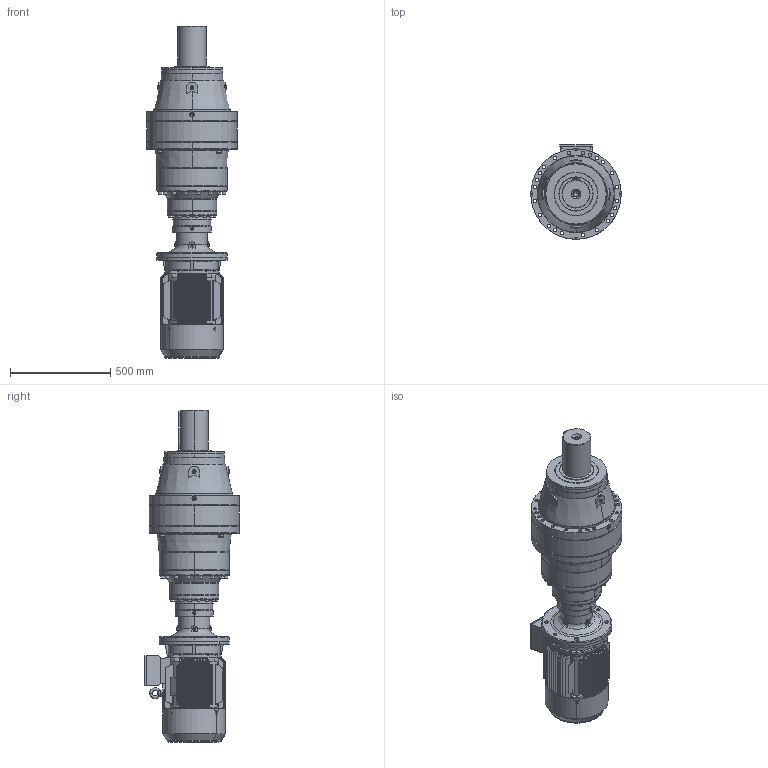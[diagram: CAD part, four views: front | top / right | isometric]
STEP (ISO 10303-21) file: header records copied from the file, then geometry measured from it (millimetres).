
FILE_DESCRIPTION (( 'STEP AP203' ), '1' );
FILE_NAME ('PNL-3504L-HS160M-4.STEP', '2019-05-24T12:41:38', ( '' ), ( '' ), 'SwSTEP 2.0', 'SolidWorks 2012', '' );
FILE_SCHEMA (( 'CONFIG_CONTROL_DESIGN' ));
Products named in the file (18): PNL-3504L-HS160M-4; M3-HS160M-FF-B5; Y2-160M+À+¿(B5)_-++ñ; Y2-160_shaft; M3-160M-FF-B5; Y2-160-2ª¥--®+_-++ñ; +ª+§ªiY2-160ñ»ª­_-++ñ; Y2-160-180ñ»ª­®+_-++ñ; Y2-160ñ»ª­+¿_-++ñ; Eyebolts GB_GB_FASTENER_SCREWS_FRS M12; +¦i-MN2-160_-++ñ; Y2-160-4Ý¾6Ý¾8-ª+---®+_-++ñ; PNL_3504L_0_0_A16_B5_ML55A_FL17A_0_0_0_0_0_0_0_0_0_0_0_M1; 11160B5_Varsayìlan; FL17A_Varsayìlan; EK3504L_Varsayìlan; ML55A_Varsayìlan; P35_Varsayìlan
Assembly tree (17 placements, depth 5):
  PNL-3504L-HS160M-4
    PNL_3504L_0_0_A16_B5_ML55A_FL17A_0_0_0_0_0_0_0_0_0_0_0_M1
      P35_Varsayìlan
      11160B5_Varsayìlan
      ML55A_Varsayìlan
      EK3504L_Varsayìlan
      FL17A_Varsayìlan
    M3-HS160M-FF-B5
      M3-160M-FF-B5
        Eyebolts GB_GB_FASTENER_SCREWS_FRS M12
        Y2-160-4Ý¾6Ý¾8-ª+---®+_-++ñ
        +¦i-MN2-160_-++ñ
        Y2-160-2ª¥--®+_-++ñ
        +ª+§ªiY2-160ñ»ª­_-++ñ
          Y2-160-180ñ»ª­®+_-++ñ
          Y2-160ñ»ª­+¿_-++ñ
        Y2-160M+À+¿(B5)_-++ñ
        Y2-160_shaft
Bounding box: 450 x 472 x 1653.6 mm (x, y, z)
Volume: 88098397.5 mm3; surface area: 4756103.3 mm2
Topology: 16 solids, 29 shells, 3899 faces, 10253 edges, 6475 vertices
Faces by surface type: cylinder 1480, plane 1434, bspline 599, cone 265, torus 81, sphere 40
Full cylindrical faces by diameter (mm): 8.566 x1
Entity records: 178273 total; most frequent: CARTESIAN_POINT 84719, ORIENTED_EDGE 20188, DIRECTION 17937, EDGE_CURVE 10102, AXIS2_PLACEMENT_3D 6985, VERTEX_POINT 6461, EDGE_LOOP 4442, LINE 3967
